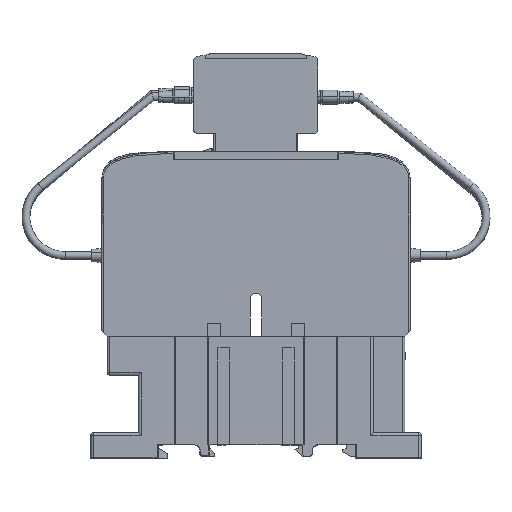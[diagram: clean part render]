
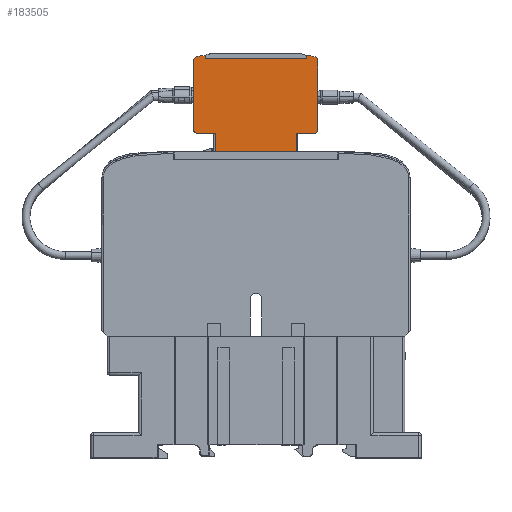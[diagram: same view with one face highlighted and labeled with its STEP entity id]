
A CAD part, front view. The second image highlights one B-rep face of the part: STEP entity #183505.
In plain terms, the highlighted planar face has unit normal (0, -1, 0).
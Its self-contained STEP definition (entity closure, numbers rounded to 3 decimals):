
#172224=DIRECTION('',(1.,0.,0.));
#172225=VECTOR('',#172224,31.2);
#172226=CARTESIAN_POINT('',(-15.7,-28.2,107.6));
#172227=LINE('',#172226,#172225);
#172385=CARTESIAN_POINT('',(22.2,-28.2,116.1));
#172386=DIRECTION('',(0.,-1.,0.));
#172387=DIRECTION('',(0.,0.,-1.));
#172388=AXIS2_PLACEMENT_3D('',#172385,#172386,#172387);
#172390=DIRECTION('',(0.,0.,1.));
#172391=VECTOR('',#172390,7.);
#172392=CARTESIAN_POINT('',(15.5,-28.2,107.6));
#172393=LINE('',#172392,#172391);
#172394=DIRECTION('',(0.,0.,-1.));
#172395=VECTOR('',#172394,7.);
#172396=CARTESIAN_POINT('',(-15.7,-28.2,114.6));
#172397=LINE('',#172396,#172395);
#172398=CARTESIAN_POINT('',(-22.4,-28.2,116.1));
#172399=DIRECTION('',(0.,-1.,0.));
#172400=DIRECTION('',(-1.,0.,0.));
#172401=AXIS2_PLACEMENT_3D('',#172398,#172399,#172400);
#172403=DIRECTION('',(0.,0.,1.));
#172404=VECTOR('',#172403,26.3);
#172405=CARTESIAN_POINT('',(-23.9,-28.2,116.1));
#172406=LINE('',#172405,#172404);
#172407=CARTESIAN_POINT('',(-19.9,-28.2,144.4));
#172408=CARTESIAN_POINT('',(-20.15,-28.2,144.4));
#172409=CARTESIAN_POINT('',(-20.638,-28.2,144.388));
#172410=CARTESIAN_POINT('',(-21.33,-28.2,144.33));
#172411=CARTESIAN_POINT('',(-21.974,-28.2,144.224));
#172412=CARTESIAN_POINT('',(-22.561,-28.2,144.061));
#172413=CARTESIAN_POINT('',(-22.991,-28.2,143.866));
#172414=CARTESIAN_POINT('',(-23.29,-28.2,143.665));
#172415=CARTESIAN_POINT('',(-23.488,-28.2,143.488));
#172416=CARTESIAN_POINT('',(-23.656,-28.2,143.281));
#172417=CARTESIAN_POINT('',(-23.788,-28.2,143.038));
#172418=CARTESIAN_POINT('',(-23.877,-28.2,142.752));
#172419=CARTESIAN_POINT('',(-23.9,-28.2,142.525));
#172420=CARTESIAN_POINT('',(-23.9,-28.2,142.4));
#172422=DIRECTION('',(1.,0.,0.));
#172423=VECTOR('',#172422,0.45);
#172424=CARTESIAN_POINT('',(-19.9,-28.2,144.4));
#172425=LINE('',#172424,#172423);
#172426=DIRECTION('',(0.,0.,-1.));
#172427=VECTOR('',#172426,1.2);
#172428=CARTESIAN_POINT('',(-19.45,-28.2,144.4));
#172429=LINE('',#172428,#172427);
#172430=DIRECTION('',(1.,0.,0.));
#172431=VECTOR('',#172430,38.7);
#172432=CARTESIAN_POINT('',(-19.45,-28.2,143.2));
#172433=LINE('',#172432,#172431);
#172434=DIRECTION('',(0.,0.,1.));
#172435=VECTOR('',#172434,1.2);
#172436=CARTESIAN_POINT('',(19.25,-28.2,143.2));
#172437=LINE('',#172436,#172435);
#172438=DIRECTION('',(1.,0.,0.));
#172439=VECTOR('',#172438,0.45);
#172440=CARTESIAN_POINT('',(19.25,-28.2,144.4));
#172441=LINE('',#172440,#172439);
#172442=CARTESIAN_POINT('',(23.7,-28.2,142.4));
#172443=CARTESIAN_POINT('',(23.7,-28.2,142.525));
#172444=CARTESIAN_POINT('',(23.677,-28.2,142.752));
#172445=CARTESIAN_POINT('',(23.588,-28.2,143.038));
#172446=CARTESIAN_POINT('',(23.456,-28.2,143.281));
#172447=CARTESIAN_POINT('',(23.288,-28.2,143.488));
#172448=CARTESIAN_POINT('',(23.09,-28.2,143.665));
#172449=CARTESIAN_POINT('',(22.791,-28.2,143.866));
#172450=CARTESIAN_POINT('',(22.361,-28.2,144.061));
#172451=CARTESIAN_POINT('',(21.774,-28.2,144.224));
#172452=CARTESIAN_POINT('',(21.13,-28.2,144.33));
#172453=CARTESIAN_POINT('',(20.438,-28.2,144.388));
#172454=CARTESIAN_POINT('',(19.95,-28.2,144.4));
#172455=CARTESIAN_POINT('',(19.7,-28.2,144.4));
#172648=DIRECTION('',(0.,0.,1.));
#172649=VECTOR('',#172648,26.3);
#172650=CARTESIAN_POINT('',(23.7,-28.2,116.1));
#172651=LINE('',#172650,#172649);
#178035=DIRECTION('',(1.,0.,0.));
#178036=VECTOR('',#178035,6.7);
#178037=CARTESIAN_POINT('',(15.5,-28.2,114.6));
#178038=LINE('',#178037,#178036);
#178087=DIRECTION('',(1.,0.,0.));
#178088=VECTOR('',#178087,6.7);
#178089=CARTESIAN_POINT('',(-22.4,-28.2,114.6));
#178090=LINE('',#178089,#178088);
#180439=CARTESIAN_POINT('',(19.25,-28.2,143.2));
#180440=CARTESIAN_POINT('',(-19.45,-28.2,143.2));
#180441=VERTEX_POINT('',#180439);
#180442=VERTEX_POINT('',#180440);
#180443=CARTESIAN_POINT('',(19.25,-28.2,144.4));
#180444=VERTEX_POINT('',#180443);
#180445=CARTESIAN_POINT('',(-19.45,-28.2,144.4));
#180446=VERTEX_POINT('',#180445);
#181401=VERTEX_POINT('',#172407);
#181402=VERTEX_POINT('',#172420);
#181448=CARTESIAN_POINT('',(23.7,-28.2,142.4));
#181449=VERTEX_POINT('',#181448);
#181450=VERTEX_POINT('',#172455);
#182629=CARTESIAN_POINT('',(22.2,-28.2,114.6));
#182630=VERTEX_POINT('',#182629);
#182631=CARTESIAN_POINT('',(23.7,-28.2,116.1));
#182632=VERTEX_POINT('',#182631);
#182681=CARTESIAN_POINT('',(-23.9,-28.2,116.1));
#182682=CARTESIAN_POINT('',(-22.4,-28.2,114.6));
#182683=VERTEX_POINT('',#182681);
#182684=VERTEX_POINT('',#182682);
#182888=CARTESIAN_POINT('',(-15.7,-28.2,107.6));
#182890=VERTEX_POINT('',#182888);
#182894=CARTESIAN_POINT('',(-15.7,-28.2,114.6));
#182895=VERTEX_POINT('',#182894);
#182908=CARTESIAN_POINT('',(15.5,-28.2,107.6));
#182909=VERTEX_POINT('',#182908);
#182910=CARTESIAN_POINT('',(15.5,-28.2,114.6));
#182911=VERTEX_POINT('',#182910);
#183467=CARTESIAN_POINT('',(-23.9,-28.2,107.6));
#183468=DIRECTION('',(0.,-1.,0.));
#183469=DIRECTION('',(1.,0.,0.));
#183470=AXIS2_PLACEMENT_3D('',#183467,#183468,#183469);
#183471=PLANE('',#183470);
#183473=ORIENTED_EDGE('',*,*,#183472,.F.);
#183475=ORIENTED_EDGE('',*,*,#183474,.F.);
#183477=ORIENTED_EDGE('',*,*,#183476,.F.);
#183478=ORIENTED_EDGE('',*,*,#183322,.F.);
#183480=ORIENTED_EDGE('',*,*,#183479,.F.);
#183482=ORIENTED_EDGE('',*,*,#183481,.F.);
#183484=ORIENTED_EDGE('',*,*,#183483,.F.);
#183486=ORIENTED_EDGE('',*,*,#183485,.T.);
#183488=ORIENTED_EDGE('',*,*,#183487,.F.);
#183490=ORIENTED_EDGE('',*,*,#183489,.T.);
#183492=ORIENTED_EDGE('',*,*,#183491,.T.);
#183494=ORIENTED_EDGE('',*,*,#183493,.T.);
#183496=ORIENTED_EDGE('',*,*,#183495,.T.);
#183498=ORIENTED_EDGE('',*,*,#183497,.T.);
#183500=ORIENTED_EDGE('',*,*,#183499,.F.);
#183502=ORIENTED_EDGE('',*,*,#183501,.F.);
#183503=EDGE_LOOP('',(#183473,#183475,#183477,#183478,#183480,#183482,#183484,
#183486,#183488,#183490,#183492,#183494,#183496,#183498,#183500,#183502));
#183504=FACE_OUTER_BOUND('',#183503,.F.);
#183505=ADVANCED_FACE('',(#183504),#183471,.T.);
#172389=CIRCLE('',#172388,1.5);
#172402=CIRCLE('',#172401,1.5);
#172421=B_SPLINE_CURVE_WITH_KNOTS('',3,(#172407,#172408,#172409,#172410,#172411,
#172412,#172413,#172414,#172415,#172416,#172417,#172418,#172419,#172420),
.UNSPECIFIED.,.F.,.F.,(4,1,1,1,1,1,1,1,1,1,1,4),(0.,0.125,0.25,0.375,
0.5,0.625,0.688,0.75,0.813,0.875,0.938,1.),.UNSPECIFIED.);
#172456=B_SPLINE_CURVE_WITH_KNOTS('',3,(#172442,#172443,#172444,#172445,#172446,
#172447,#172448,#172449,#172450,#172451,#172452,#172453,#172454,#172455),
.UNSPECIFIED.,.F.,.F.,(4,1,1,1,1,1,1,1,1,1,1,4),(0.,0.063,0.125,0.188,
0.25,0.313,0.375,0.5,0.625,0.75,0.875,1.),.UNSPECIFIED.);
#183322=EDGE_CURVE('',#182890,#182909,#172227,.T.);
#183472=EDGE_CURVE('',#182630,#182632,#172389,.T.);
#183474=EDGE_CURVE('',#182911,#182630,#178038,.T.);
#183476=EDGE_CURVE('',#182909,#182911,#172393,.T.);
#183479=EDGE_CURVE('',#182895,#182890,#172397,.T.);
#183481=EDGE_CURVE('',#182684,#182895,#178090,.T.);
#183483=EDGE_CURVE('',#182683,#182684,#172402,.T.);
#183485=EDGE_CURVE('',#182683,#181402,#172406,.T.);
#183487=EDGE_CURVE('',#181401,#181402,#172421,.T.);
#183489=EDGE_CURVE('',#181401,#180446,#172425,.T.);
#183491=EDGE_CURVE('',#180446,#180442,#172429,.T.);
#183493=EDGE_CURVE('',#180442,#180441,#172433,.T.);
#183495=EDGE_CURVE('',#180441,#180444,#172437,.T.);
#183497=EDGE_CURVE('',#180444,#181450,#172441,.T.);
#183499=EDGE_CURVE('',#181449,#181450,#172456,.T.);
#183501=EDGE_CURVE('',#182632,#181449,#172651,.T.);
